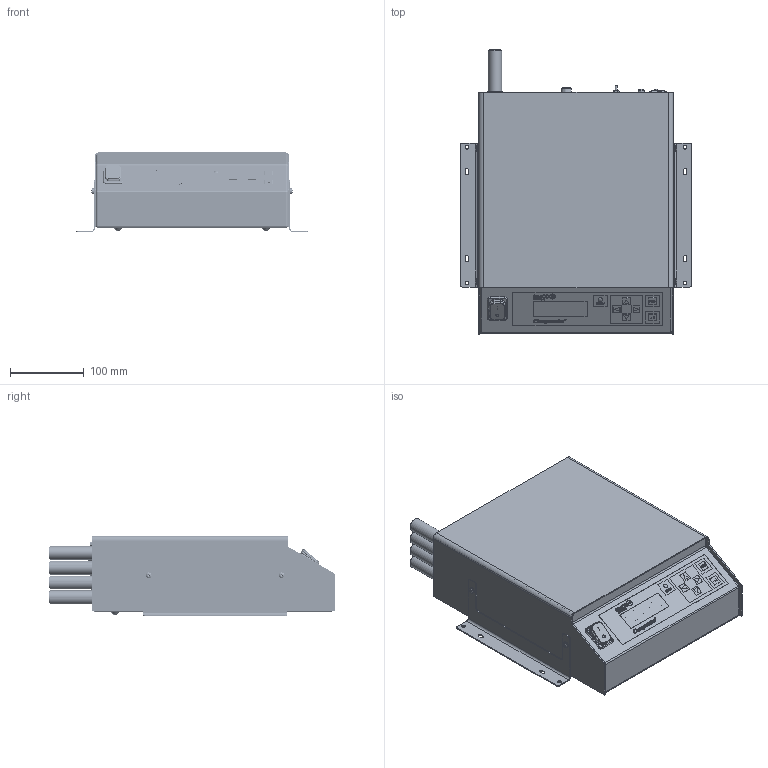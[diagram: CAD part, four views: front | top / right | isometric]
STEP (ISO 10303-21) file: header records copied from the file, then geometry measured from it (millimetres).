
FILE_DESCRIPTION(('Bauteilbeschreibung','HiCAD-Model','HiCAD-STEP-TRANSLATION','Bauteilbeschreibung'),'2;1');
FILE_NAME('SOLID-CM5.STP','2013-02-28T14:25:07+00:00',('Konstrukteur'),('Konstrukteur Firma GmbH'),' HiCAD 2011, Step 1600.0 ','HiCAD 2011','confidential');
FILE_SCHEMA(('AUTOMOTIVE_DESIGN { 1 2 10303 214 0 1 1 1 }'));
Products named in the file (13): SOLID_CM5; CHARGEMASTER 4E GEN_SHEET META; BRACKET; BRACKET0; ISO 7045_M4X6_4_8_H_PAN HEAD B; ISO070450M4X604080H0PAN0HEAD0B; BRACKET1; BRACKET2; ISO070450M4X604080H0PAN0HEAD0B0; ISO070450M4X604080H0PAN0HEAD0B1; DISPLAYGLAS; RAND_DIGGITS; KAST
Assembly tree (12 placements, depth 4):
  SOLID_CM5
    CHARGEMASTER 4E GEN_SHEET META
      BRACKET
      BRACKET0
        ISO 7045_M4X6_4_8_H_PAN HEAD B
        ISO070450M4X604080H0PAN0HEAD0B
      BRACKET1
      BRACKET2
        ISO070450M4X604080H0PAN0HEAD0B0
        ISO070450M4X604080H0PAN0HEAD0B1
      DISPLAYGLAS
      RAND_DIGGITS
      KAST
Bounding box: 313.5 x 386.46 x 108.15 mm (x, y, z)
Volume: 8091723.6 mm3; surface area: 658486 mm2
Topology: 128 solids, 142 shells, 15604 faces, 45255 edges, 30067 vertices
Faces by surface type: plane 14892, cylinder 449, cone 141, torus 109, sphere 13
Full cylindrical faces by diameter (mm): 1 x9, 1.55 x1, 1.664 x1, 1.984 x1, 2.248 x1, 2.387 x2, 2.7 x2, 3 x6, 3.141 x5, 3.2 x2, 3.4 x1, 3.6 x2, 4 x6, 5 x10, 5.3 x2, 6 x2, 7 x4, 7.853 x1, 8 x4, 9 x1, 9.5 x8, 10.9 x1, 11 x1, 12 x5, 12.3 x1, 16 x4, 18.5 x4
Entity records: 850185 total; most frequent: CARTESIAN_POINT 94590, ORIENTED_EDGE 90020, DIRECTION 77195, COLOUR_RGB 59886, PRESENTATION_STYLE_ASSIGNMENT 59886, OVER_RIDING_STYLED_ITEM 59877, EDGE_CURVE 45010, CURVE_STYLE 44894
